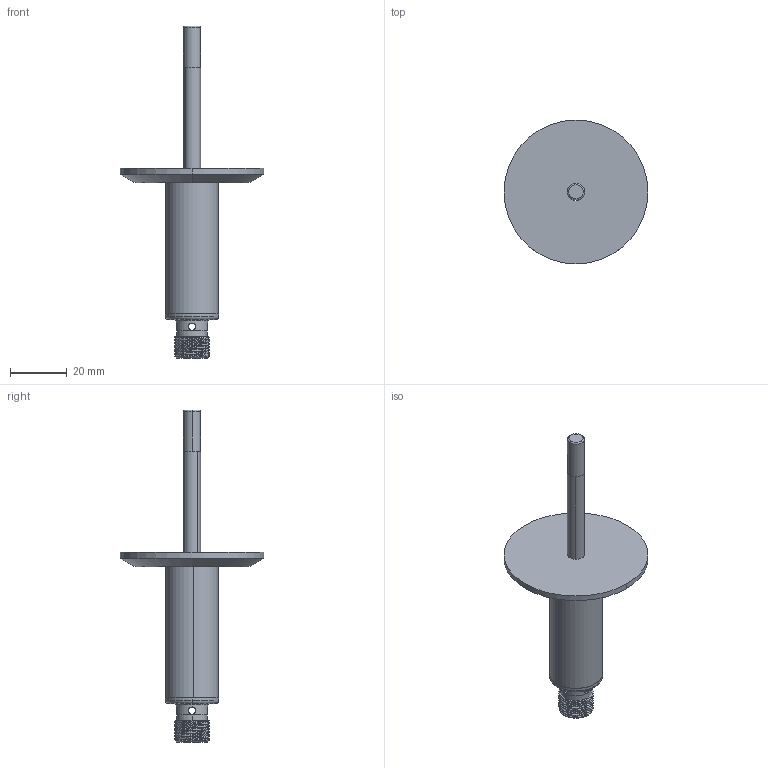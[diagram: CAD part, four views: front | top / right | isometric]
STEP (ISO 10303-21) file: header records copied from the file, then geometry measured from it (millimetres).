
FILE_DESCRIPTION (( 'STEP AP214' ), '1' );
FILE_NAME ('BTS1AK2-T100.STEP', '2025-12-05T02:17:13', ( '' ), ( '' ), 'SwSTEP 2.0', 'SolidWorks 2025', '' );
FILE_SCHEMA (( 'AUTOMOTIVE_DESIGN' ));
Length unit declared in the file: millimetre
Products named in the file (7): 卡盘.STEP; 加长管.STEP; TB1P1(1).STEP; 壳体.STEP; 连接管（ifm）.STEP; 45探棒.STEP; BTS1AK2-T100
Assembly tree (6 placements, depth 3):
  BTS1AK2-T100
    TB1P1(1).STEP
      壳体.STEP
      连接管（ifm）.STEP
      45探棒.STEP
      加长管.STEP
      卡盘.STEP
Bounding box: 50.5 x 50.5 x 116.5 mm (x, y, z)
Volume: 12654.3 mm3; surface area: 13071.4 mm2
Topology: 5 solids, 5 shells, 112 faces, 258 edges, 161 vertices
Faces by surface type: cylinder 60, cone 24, plane 20, torus 6, bspline 2
Entity records: 4743 total; most frequent: CARTESIAN_POINT 2023, DIRECTION 551, ORIENTED_EDGE 516, EDGE_CURVE 258, AXIS2_PLACEMENT_3D 230, VERTEX_POINT 161, EDGE_LOOP 133, FACE_OUTER_BOUND 112
